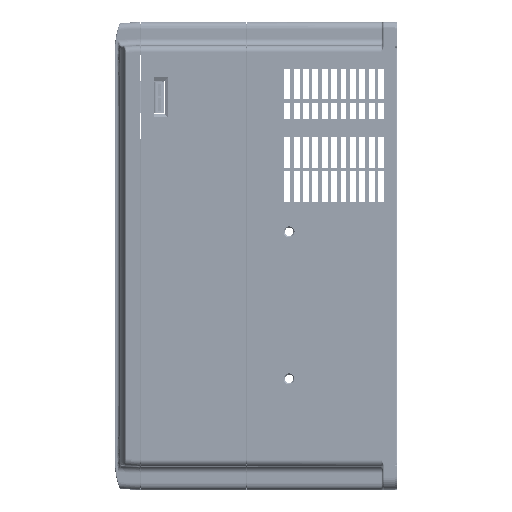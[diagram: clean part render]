
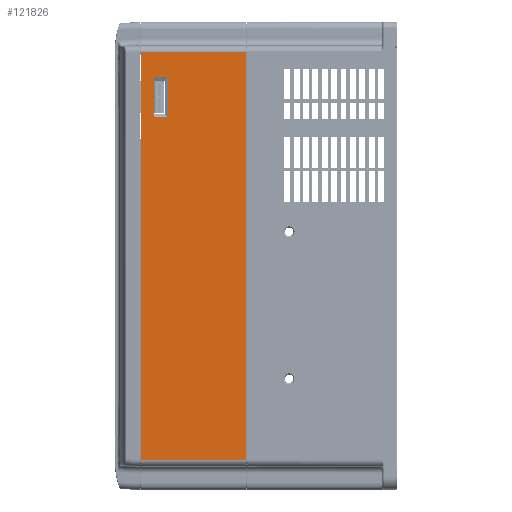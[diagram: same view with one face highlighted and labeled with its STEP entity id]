
A CAD part, left-side view. The second image highlights one B-rep face of the part: STEP entity #121826.
In plain terms, the highlighted planar face has unit normal (-1, 0, 0) as drawn and (1, 0, 0) by its records, which use the part's own axes.
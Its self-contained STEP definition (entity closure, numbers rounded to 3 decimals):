
#82517=DIRECTION('',(0.,0.,-1.));
#82518=VECTOR('',#82517,244.);
#82519=CARTESIAN_POINT('',(90.,93.4,122.));
#82520=LINE('',#82519,#82518);
#89242=DIRECTION('',(0.,1.,0.));
#89243=VECTOR('',#89242,63.1);
#89244=CARTESIAN_POINT('',(90.,93.4,-122.));
#89245=LINE('',#89244,#89243);
#89249=DIRECTION('',(0.,0.,-1.));
#89250=VECTOR('',#89249,244.);
#89251=CARTESIAN_POINT('',(90.,156.5,122.));
#89252=LINE('',#89251,#89250);
#89256=DIRECTION('',(0.,-1.,0.));
#89257=VECTOR('',#89256,63.1);
#89258=CARTESIAN_POINT('',(90.,156.5,122.));
#89259=LINE('',#89258,#89257);
#89298=DIRECTION('',(0.,-1.,0.));
#89299=VECTOR('',#89298,8.5);
#89300=CARTESIAN_POINT('',(90.,148.5,-107.));
#89301=LINE('',#89300,#89299);
#89312=DIRECTION('',(0.,0.,1.));
#89313=VECTOR('',#89312,24.);
#89314=CARTESIAN_POINT('',(90.,140.,-107.));
#89315=LINE('',#89314,#89313);
#89480=DIRECTION('',(0.,0.,-1.));
#89481=VECTOR('',#89480,24.);
#89482=CARTESIAN_POINT('',(90.,148.5,-83.));
#89483=LINE('',#89482,#89481);
#89501=DIRECTION('',(0.,1.,0.));
#89502=VECTOR('',#89501,8.5);
#89503=CARTESIAN_POINT('',(90.,140.,-83.));
#89504=LINE('',#89503,#89502);
#106932=CARTESIAN_POINT('',(90.,93.4,122.));
#106933=VERTEX_POINT('',#106932);
#106934=CARTESIAN_POINT('',(90.,93.4,-122.));
#106935=VERTEX_POINT('',#106934);
#107008=CARTESIAN_POINT('',(90.,156.5,-122.));
#107009=VERTEX_POINT('',#107008);
#107010=CARTESIAN_POINT('',(90.,156.5,122.));
#107011=VERTEX_POINT('',#107010);
#107053=CARTESIAN_POINT('',(90.,148.5,-107.));
#107054=CARTESIAN_POINT('',(90.,140.,-107.));
#107055=VERTEX_POINT('',#107053);
#107056=VERTEX_POINT('',#107054);
#107057=CARTESIAN_POINT('',(90.,148.5,-83.));
#107058=VERTEX_POINT('',#107057);
#107059=CARTESIAN_POINT('',(90.,140.,-83.));
#107060=VERTEX_POINT('',#107059);
#121804=CARTESIAN_POINT('',(90.,94.4,140.));
#121805=DIRECTION('',(1.,0.,0.));
#121806=DIRECTION('',(0.,0.,-1.));
#121807=AXIS2_PLACEMENT_3D('',#121804,#121805,#121806);
#121808=PLANE('',#121807);
#121809=ORIENTED_EDGE('',*,*,#121798,.F.);
#121810=ORIENTED_EDGE('',*,*,#116719,.F.);
#121812=ORIENTED_EDGE('',*,*,#121811,.F.);
#121813=ORIENTED_EDGE('',*,*,#121680,.T.);
#121814=EDGE_LOOP('',(#121809,#121810,#121812,#121813));
#121815=FACE_OUTER_BOUND('',#121814,.F.);
#121817=ORIENTED_EDGE('',*,*,#121816,.F.);
#121819=ORIENTED_EDGE('',*,*,#121818,.F.);
#121821=ORIENTED_EDGE('',*,*,#121820,.F.);
#121823=ORIENTED_EDGE('',*,*,#121822,.F.);
#121824=EDGE_LOOP('',(#121817,#121819,#121821,#121823));
#121825=FACE_BOUND('',#121824,.F.);
#116719=EDGE_CURVE('',#106933,#106935,#82520,.T.);
#121680=EDGE_CURVE('',#107011,#107009,#89252,.T.);
#121798=EDGE_CURVE('',#106935,#107009,#89245,.T.);
#121811=EDGE_CURVE('',#107011,#106933,#89259,.T.);
#121816=EDGE_CURVE('',#107055,#107056,#89301,.T.);
#121818=EDGE_CURVE('',#107058,#107055,#89483,.T.);
#121820=EDGE_CURVE('',#107060,#107058,#89504,.T.);
#121822=EDGE_CURVE('',#107056,#107060,#89315,.T.);
#121826=ADVANCED_FACE('',(#121815,#121825),#121808,.T.);
